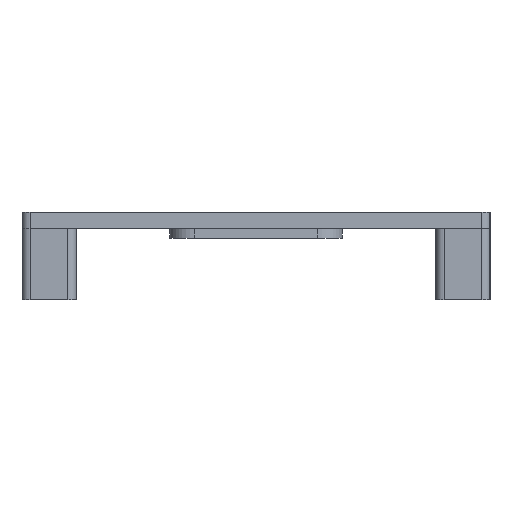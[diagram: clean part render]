
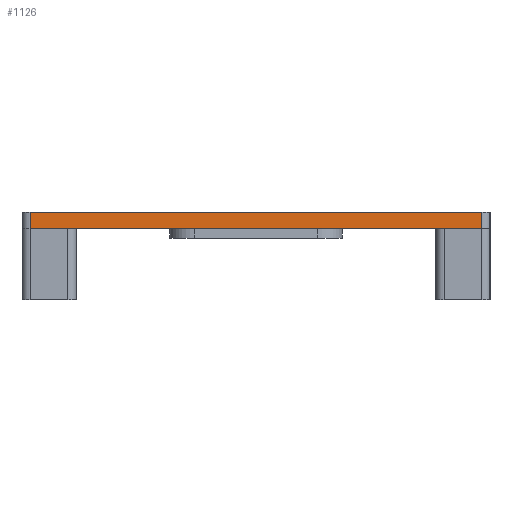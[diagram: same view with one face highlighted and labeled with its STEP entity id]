
A CAD part, left-side view. The second image highlights one B-rep face of the part: STEP entity #1126.
In plain terms, the highlighted planar face has unit normal (-1, 0, 0).
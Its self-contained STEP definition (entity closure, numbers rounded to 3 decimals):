
#73 = VERTEX_POINT ( 'NONE', #542 ) ;
#191 = CARTESIAN_POINT ( 'NONE',  ( -43.965, 27.5, 9. ) ) ;
#214 = CARTESIAN_POINT ( 'NONE',  ( -43.965, -27.5, 9. ) ) ;
#309 = EDGE_CURVE ( 'NONE', #735, #433, #717, .T. ) ;
#433 = VERTEX_POINT ( 'NONE', #1033 ) ;
#532 = LINE ( 'NONE', #2012, #3010 ) ;
#542 = CARTESIAN_POINT ( 'NONE',  ( -43.965, -27.5, 7. ) ) ;
#627 = FACE_OUTER_BOUND ( 'NONE', #2230, .T. ) ;
#717 = LINE ( 'NONE', #750, #2963 ) ;
#735 = VERTEX_POINT ( 'NONE', #191 ) ;
#750 = CARTESIAN_POINT ( 'NONE',  ( -43.965, 27.5, 7. ) ) ;
#847 = ORIENTED_EDGE ( 'NONE', *, *, #2566, .T. ) ;
#1033 = CARTESIAN_POINT ( 'NONE',  ( -43.965, 27.5, 7. ) ) ;
#1050 = DIRECTION ( 'NONE',  ( 0., 0., 1. ) ) ;
#1121 = DIRECTION ( 'NONE',  ( 0., -1., 0. ) ) ;
#1126 = ADVANCED_FACE ( 'NONE', ( #627 ), #2388, .T. ) ;
#1390 = VECTOR ( 'NONE', #2386, 1000. ) ;
#1461 = ORIENTED_EDGE ( 'NONE', *, *, #1936, .T. ) ;
#1610 = CARTESIAN_POINT ( 'NONE',  ( -43.965, 0., 0. ) ) ;
#1888 = VERTEX_POINT ( 'NONE', #214 ) ;
#1936 = EDGE_CURVE ( 'NONE', #73, #1888, #532, .T. ) ;
#2012 = CARTESIAN_POINT ( 'NONE',  ( -43.965, -27.5, 9. ) ) ;
#2071 = ORIENTED_EDGE ( 'NONE', *, *, #309, .T. ) ;
#2141 = DIRECTION ( 'NONE',  ( -1., 0., 0. ) ) ;
#2230 = EDGE_LOOP ( 'NONE', ( #847, #1461, #2730, #2071 ) ) ;
#2386 = DIRECTION ( 'NONE',  ( 0., -1., 0. ) ) ;
#2388 = PLANE ( 'NONE',  #3070 ) ;
#2403 = LINE ( 'NONE', #2852, #1390 ) ;
#2448 = EDGE_CURVE ( 'NONE', #735, #1888, #3003, .T. ) ;
#2477 = VECTOR ( 'NONE', #1121, 1000. ) ;
#2566 = EDGE_CURVE ( 'NONE', #433, #73, #2403, .T. ) ;
#2624 = DIRECTION ( 'NONE',  ( 0., -1., 0. ) ) ;
#2730 = ORIENTED_EDGE ( 'NONE', *, *, #2448, .F. ) ;
#2852 = CARTESIAN_POINT ( 'NONE',  ( -43.965, 0., 7. ) ) ;
#2963 = VECTOR ( 'NONE', #3020, 1000. ) ;
#3003 = LINE ( 'NONE', #3160, #2477 ) ;
#3010 = VECTOR ( 'NONE', #1050, 1000. ) ;
#3020 = DIRECTION ( 'NONE',  ( 0., 0., -1. ) ) ;
#3070 = AXIS2_PLACEMENT_3D ( 'NONE', #1610, #2141, #2624 ) ;
#3160 = CARTESIAN_POINT ( 'NONE',  ( -43.965, 0., 9. ) ) ;
